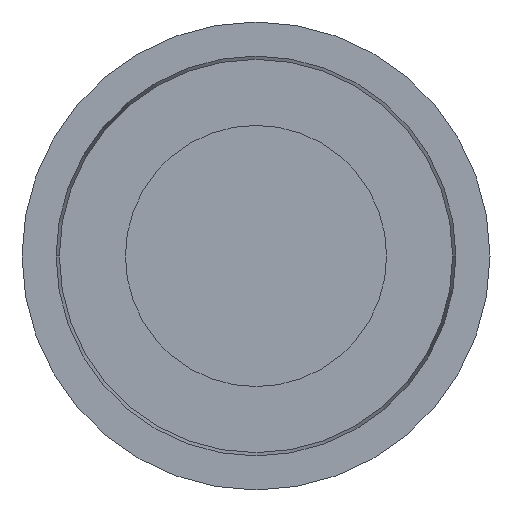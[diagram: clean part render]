
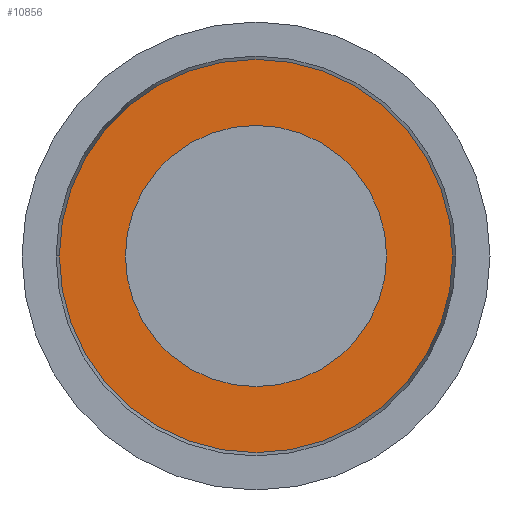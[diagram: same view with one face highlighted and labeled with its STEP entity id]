
A CAD part, left-side view. The second image highlights one B-rep face of the part: STEP entity #10856.
In plain terms, the highlighted planar face has unit normal (-1, 0, 0).
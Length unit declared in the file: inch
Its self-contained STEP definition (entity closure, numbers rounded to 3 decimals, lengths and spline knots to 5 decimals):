
#605 = CARTESIAN_POINT ( 'NONE',  ( 0., 0.105, 0. ) ) ;
#894 = DIRECTION ( 'NONE',  ( 0., -1., 0. ) ) ;
#1032 = EDGE_LOOP ( 'NONE', ( #16021, #9980 ) ) ;
#1395 = DIRECTION ( 'NONE',  ( -1., 0., 0. ) ) ;
#1531 = CIRCLE ( 'NONE', #5796, 0.06975 ) ;
#2584 = DIRECTION ( 'NONE',  ( 0., 1., 0. ) ) ;
#3365 = EDGE_LOOP ( 'NONE', ( #8970, #4980 ) ) ;
#4073 = AXIS2_PLACEMENT_3D ( 'NONE', #15382, #1395, #12773 ) ;
#4115 = CIRCLE ( 'NONE', #13640, 0.105 ) ;
#4222 = DIRECTION ( 'NONE',  ( 0., -1., 0. ) ) ;
#4980 = ORIENTED_EDGE ( 'NONE', *, *, #8026, .F. ) ;
#5227 = CARTESIAN_POINT ( 'NONE',  ( 0., -0.105, 0. ) ) ;
#5599 = CARTESIAN_POINT ( 'NONE',  ( 0., 0.06975, 0. ) ) ;
#5796 = AXIS2_PLACEMENT_3D ( 'NONE', #18280, #16678, #4222 ) ;
#5849 = FACE_OUTER_BOUND ( 'NONE', #1032, .T. ) ;
#7306 = FACE_BOUND ( 'NONE', #3365, .T. ) ;
#7516 = CARTESIAN_POINT ( 'NONE',  ( 0., 0.105, 0. ) ) ;
#7806 = EDGE_CURVE ( 'NONE', #11143, #19101, #1531, .T. ) ;
#7814 = DIRECTION ( 'NONE',  ( 0., -1., 0. ) ) ;
#8026 = EDGE_CURVE ( 'NONE', #19101, #11143, #12911, .T. ) ;
#8970 = ORIENTED_EDGE ( 'NONE', *, *, #7806, .F. ) ;
#9980 = ORIENTED_EDGE ( 'NONE', *, *, #18610, .T. ) ;
#10566 = DIRECTION ( 'NONE',  ( 1., 0., 0. ) ) ;
#10856 = ADVANCED_FACE ( 'NONE', ( #7306, #5849 ), #12130, .F. ) ;
#11143 = VERTEX_POINT ( 'NONE', #12399 ) ;
#12130 = PLANE ( 'NONE',  #13416 ) ;
#12399 = CARTESIAN_POINT ( 'NONE',  ( 0., -0.06975, 0. ) ) ;
#12767 = AXIS2_PLACEMENT_3D ( 'NONE', #13417, #14949, #894 ) ;
#12773 = DIRECTION ( 'NONE',  ( 0., -1., 0. ) ) ;
#12911 = CIRCLE ( 'NONE', #4073, 0.06975 ) ;
#13416 = AXIS2_PLACEMENT_3D ( 'NONE', #7516, #10566, #2584 ) ;
#13417 = CARTESIAN_POINT ( 'NONE',  ( 0., 0., 0. ) ) ;
#13640 = AXIS2_PLACEMENT_3D ( 'NONE', #17143, #18475, #7814 ) ;
#13675 = EDGE_CURVE ( 'NONE', #19668, #18889, #14416, .T. ) ;
#14416 = CIRCLE ( 'NONE', #12767, 0.105 ) ;
#14949 = DIRECTION ( 'NONE',  ( -1., 0., 0. ) ) ;
#15382 = CARTESIAN_POINT ( 'NONE',  ( 0., 0., 0. ) ) ;
#16021 = ORIENTED_EDGE ( 'NONE', *, *, #13675, .T. ) ;
#16678 = DIRECTION ( 'NONE',  ( -1., 0., 0. ) ) ;
#17143 = CARTESIAN_POINT ( 'NONE',  ( 0., 0., 0. ) ) ;
#18280 = CARTESIAN_POINT ( 'NONE',  ( 0., 0., 0. ) ) ;
#18475 = DIRECTION ( 'NONE',  ( -1., 0., 0. ) ) ;
#18610 = EDGE_CURVE ( 'NONE', #18889, #19668, #4115, .T. ) ;
#18889 = VERTEX_POINT ( 'NONE', #605 ) ;
#19101 = VERTEX_POINT ( 'NONE', #5599 ) ;
#19668 = VERTEX_POINT ( 'NONE', #5227 ) ;
